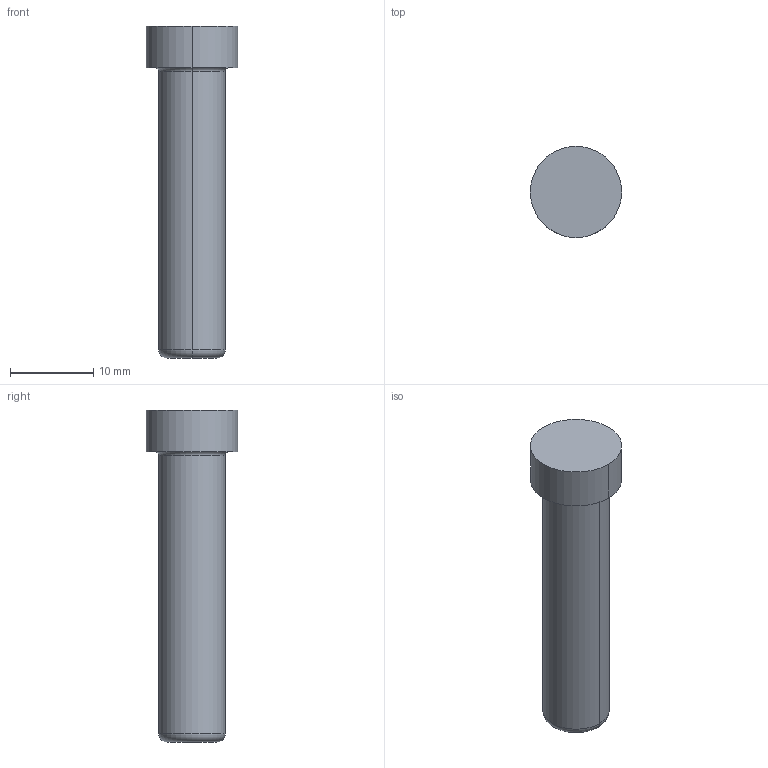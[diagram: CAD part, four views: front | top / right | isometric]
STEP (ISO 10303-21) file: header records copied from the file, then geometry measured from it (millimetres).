
FILE_DESCRIPTION(/* description */ (''),/* implementation_level */ '2;1');
FILE_NAME(/* name */ '3d_sgph8-40_00266_r00.stp',/* time_stamp */ '2011-01-10T14:11:07+09:00',/* author */ ('MISUMI'),/* organization */ (''),/* preprocessor_version */ 'ST-DEVELOPER v11',/* originating_system */ 'UGS - NX 5.0',/* authorisation */ '');
FILE_SCHEMA (('CONFIG_CONTROL_DESIGN'));
Length unit declared in the file: millimetre
Products named in the file (1): 3d_sgph8-40_00266_r00
Bounding box: 11 x 11 x 40 mm (x, y, z)
Volume: 2230.8 mm3; surface area: 1226 mm2
Topology: 1 solids, 1 shells, 11 faces, 20 edges, 12 vertices
Faces by surface type: cylinder 4, torus 4, plane 3
Entity records: 364 total; most frequent: DIRECTION 60, CARTESIAN_POINT 44, ORIENTED_EDGE 40, AXIS2_PLACEMENT_3D 28, EDGE_CURVE 20, CIRCLE 16, EDGE_LOOP 12, VERTEX_POINT 12
